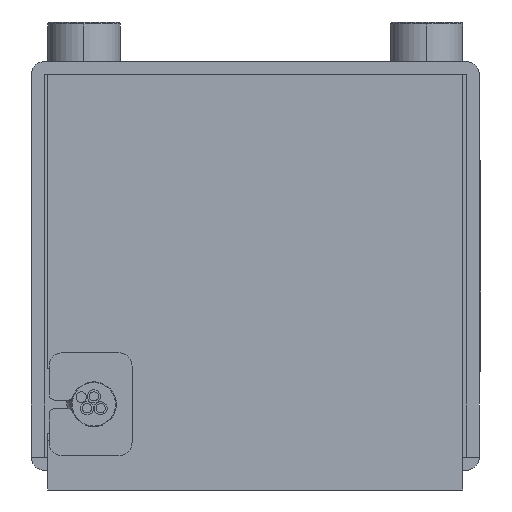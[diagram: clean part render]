
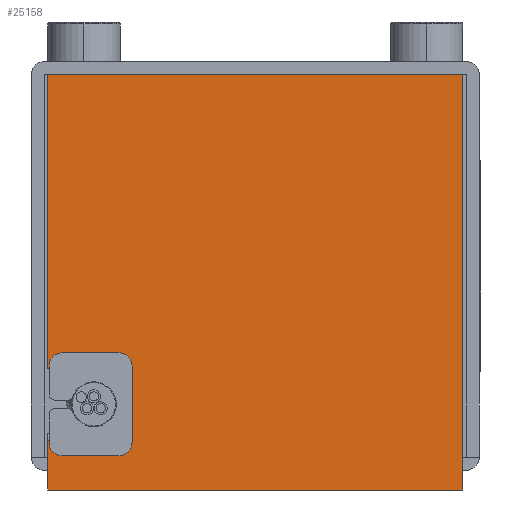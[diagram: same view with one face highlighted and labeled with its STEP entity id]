
A CAD part, left-side view. The second image highlights one B-rep face of the part: STEP entity #25158.
In plain terms, the highlighted planar face has unit normal (-1, 0, 0).
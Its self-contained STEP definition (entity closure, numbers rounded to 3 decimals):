
#1764 = CARTESIAN_POINT ( 'NONE',  ( 0., 15.75, 15.75 ) ) ;
#2710 = EDGE_CURVE ( 'NONE', #22311, #32171, #6716, .T. ) ;
#4358 = EDGE_CURVE ( 'NONE', #22410, #22311, #29453, .T. ) ;
#6360 = CARTESIAN_POINT ( 'NONE',  ( 0., 15.75, 15.75 ) ) ;
#6716 = LINE ( 'NONE', #13281, #28148 ) ;
#7526 = VECTOR ( 'NONE', #18059, 1000. ) ;
#8140 = EDGE_CURVE ( 'NONE', #29467, #33186, #17103, .T. ) ;
#8244 = VERTEX_POINT ( 'NONE', #28540 ) ;
#8373 = AXIS2_PLACEMENT_3D ( 'NONE', #21618, #25370, #24914 ) ;
#8435 = CARTESIAN_POINT ( 'NONE',  ( 0., 15.75, 15.75 ) ) ;
#11445 = VECTOR ( 'NONE', #36581, 1000. ) ;
#11520 = LINE ( 'NONE', #14806, #21458 ) ;
#11648 = EDGE_CURVE ( 'NONE', #22410, #8244, #36846, .T. ) ;
#12378 = CARTESIAN_POINT ( 'NONE',  ( 0., 12.25, -9.25 ) ) ;
#12749 = VERTEX_POINT ( 'NONE', #25966 ) ;
#13281 = CARTESIAN_POINT ( 'NONE',  ( 0., 12.25, -6.5 ) ) ;
#13349 = ORIENTED_EDGE ( 'NONE', *, *, #23983, .F. ) ;
#14356 = PLANE ( 'NONE',  #8373 ) ;
#14406 = CARTESIAN_POINT ( 'NONE',  ( 0., 12.25, -12. ) ) ;
#14806 = CARTESIAN_POINT ( 'NONE',  ( 0., -15.75, 15.75 ) ) ;
#16422 = CARTESIAN_POINT ( 'NONE',  ( 0., 0., -15.75 ) ) ;
#17103 = LINE ( 'NONE', #16422, #33124 ) ;
#17651 = FACE_OUTER_BOUND ( 'NONE', #18293, .T. ) ;
#18059 = DIRECTION ( 'NONE',  ( 0., 0., 1. ) ) ;
#18293 = EDGE_LOOP ( 'NONE', ( #13349, #45335, #20991, #26342, #20676, #36699, #39302, #27888 ) ) ;
#19294 = VECTOR ( 'NONE', #22396, 1000. ) ;
#19467 = DIRECTION ( 'NONE',  ( 0., 1., 0. ) ) ;
#20676 = ORIENTED_EDGE ( 'NONE', *, *, #44797, .F. ) ;
#20743 = CARTESIAN_POINT ( 'NONE',  ( 0., 15.75, -6.5 ) ) ;
#20971 = CARTESIAN_POINT ( 'NONE',  ( 0., 12.25, -6.5 ) ) ;
#20991 = ORIENTED_EDGE ( 'NONE', *, *, #4358, .F. ) ;
#21458 = VECTOR ( 'NONE', #43611, 1000. ) ;
#21618 = CARTESIAN_POINT ( 'NONE',  ( 0., 15.75, 15.75 ) ) ;
#21855 = DIRECTION ( 'NONE',  ( 0., 1., 0. ) ) ;
#22058 = LINE ( 'NONE', #23438, #11445 ) ;
#22311 = VERTEX_POINT ( 'NONE', #20971 ) ;
#22396 = DIRECTION ( 'NONE',  ( 0., 0., 1. ) ) ;
#22410 = VERTEX_POINT ( 'NONE', #14406 ) ;
#22928 = DIRECTION ( 'NONE',  ( -1., 0., 0. ) ) ;
#23438 = CARTESIAN_POINT ( 'NONE',  ( 0., 15.75, 15.75 ) ) ;
#23859 = DIRECTION ( 'NONE',  ( 0., 0., -1. ) ) ;
#23983 = EDGE_CURVE ( 'NONE', #32171, #42729, #40518, .T. ) ;
#24914 = DIRECTION ( 'NONE',  ( 0., 0., -1. ) ) ;
#25158 = ADVANCED_FACE ( 'NONE', ( #17651 ), #14356, .F. ) ;
#25370 = DIRECTION ( 'NONE',  ( 1., 0., 0. ) ) ;
#25966 = CARTESIAN_POINT ( 'NONE',  ( 0., -15.75, 15.75 ) ) ;
#26342 = ORIENTED_EDGE ( 'NONE', *, *, #11648, .T. ) ;
#27888 = ORIENTED_EDGE ( 'NONE', *, *, #31648, .F. ) ;
#28148 = VECTOR ( 'NONE', #19467, 1000. ) ;
#28424 = EDGE_CURVE ( 'NONE', #33186, #12749, #11520, .T. ) ;
#28540 = CARTESIAN_POINT ( 'NONE',  ( 0., 15.75, -12. ) ) ;
#29453 = CIRCLE ( 'NONE', #34676, 2.75 ) ;
#29467 = VERTEX_POINT ( 'NONE', #34566 ) ;
#30441 = DIRECTION ( 'NONE',  ( 0., -1., 0. ) ) ;
#31648 = EDGE_CURVE ( 'NONE', #42729, #12749, #22058, .T. ) ;
#32171 = VERTEX_POINT ( 'NONE', #20743 ) ;
#33124 = VECTOR ( 'NONE', #30441, 1000. ) ;
#33186 = VERTEX_POINT ( 'NONE', #45427 ) ;
#33620 = LINE ( 'NONE', #1764, #19294 ) ;
#34566 = CARTESIAN_POINT ( 'NONE',  ( 0., 15.75, -15.75 ) ) ;
#34676 = AXIS2_PLACEMENT_3D ( 'NONE', #12378, #22928, #23859 ) ;
#36581 = DIRECTION ( 'NONE',  ( 0., -1., 0. ) ) ;
#36699 = ORIENTED_EDGE ( 'NONE', *, *, #8140, .T. ) ;
#36846 = LINE ( 'NONE', #42963, #38737 ) ;
#38737 = VECTOR ( 'NONE', #21855, 1000. ) ;
#39302 = ORIENTED_EDGE ( 'NONE', *, *, #28424, .T. ) ;
#40518 = LINE ( 'NONE', #8435, #7526 ) ;
#42729 = VERTEX_POINT ( 'NONE', #6360 ) ;
#42963 = CARTESIAN_POINT ( 'NONE',  ( 0., 12.25, -12. ) ) ;
#43611 = DIRECTION ( 'NONE',  ( 0., 0., 1. ) ) ;
#44797 = EDGE_CURVE ( 'NONE', #29467, #8244, #33620, .T. ) ;
#45335 = ORIENTED_EDGE ( 'NONE', *, *, #2710, .F. ) ;
#45427 = CARTESIAN_POINT ( 'NONE',  ( 0., -15.75, -15.75 ) ) ;
